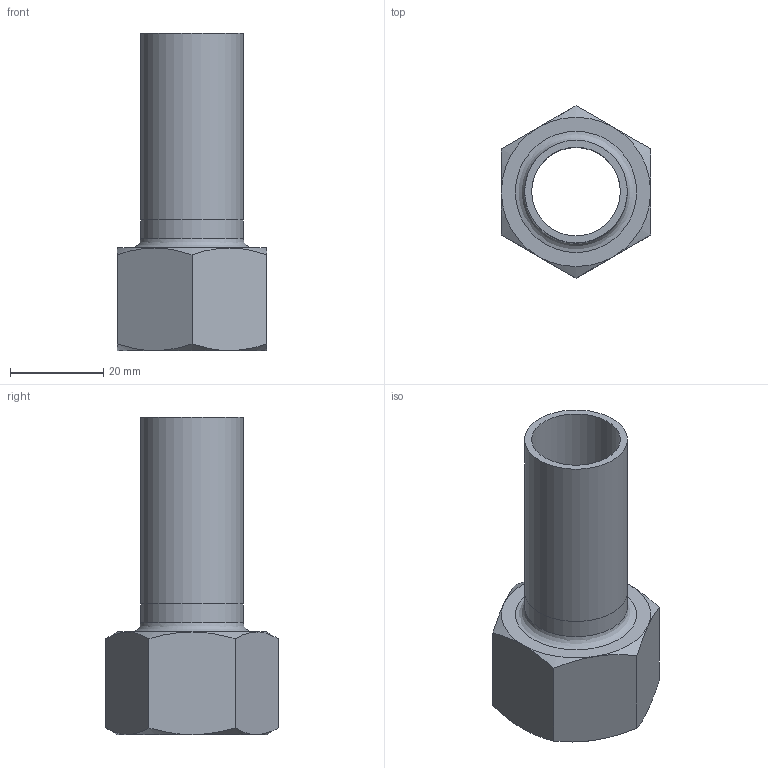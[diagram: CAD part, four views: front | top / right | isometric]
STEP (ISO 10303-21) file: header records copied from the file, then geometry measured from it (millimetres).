
FILE_DESCRIPTION((''),'2;1');
FILE_NAME('G:\Nirosan-Schmiedefeld\Technics\CAD\001 Serie 9.000\022\69246G2234H(1).stp','2017-06-22T14:13:59',('herberg'),(''),'Autodesk Inventor 2009','Autodesk Inventor 2009','');
FILE_SCHEMA(('AUTOMOTIVE_DESIGN { 1 0 10303 214 1 1 1 1 }'));
Length unit declared in the file: millimetre
Products named in the file (3): 69246G2234H(1); 69FXE22P(0); IG2234(1)
Assembly tree (2 placements, depth 2):
  69246G2234H(1)
    69FXE22P(0)
    IG2234(1)
Bounding box: 32 x 36.95 x 68 mm (x, y, z)
Volume: 14376.8 mm3; surface area: 11197.9 mm2
Topology: 2 solids, 2 shells, 31 faces, 62 edges, 37 vertices
Faces by surface type: cone 13, plane 11, bspline 4, cylinder 3
Full cylindrical faces by diameter (mm): 19 x1, 22 x2
Entity records: 884 total; most frequent: CARTESIAN_POINT 255, DIRECTION 118, ORIENTED_EDGE 108, AXIS2_PLACEMENT_3D 56, EDGE_CURVE 54, EDGE_LOOP 44, VERTEX_POINT 36, FACE_OUTER_BOUND 31
